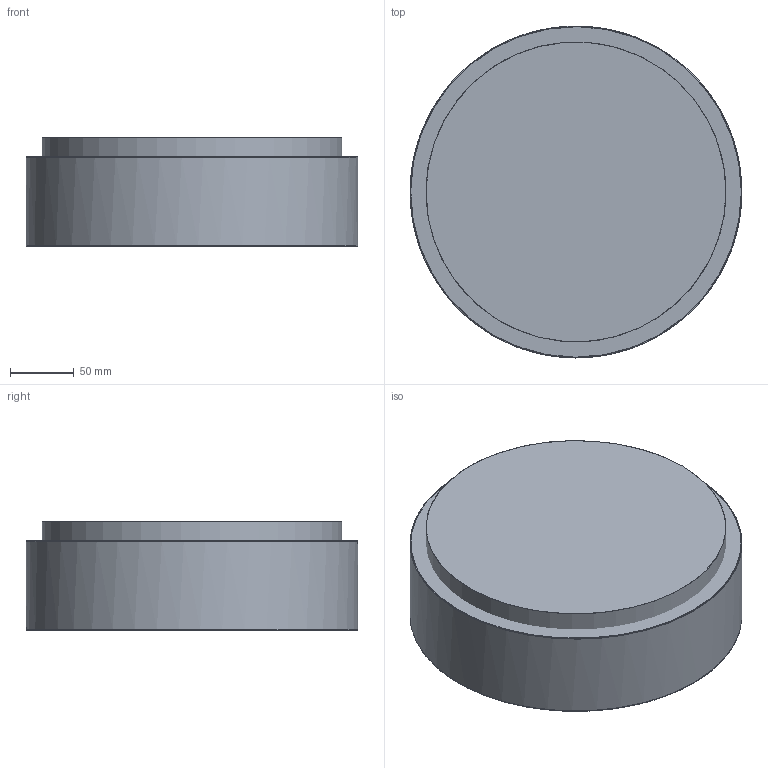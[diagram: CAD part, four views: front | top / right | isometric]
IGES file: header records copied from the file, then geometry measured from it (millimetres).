
Global section: file name: C:\Users\EQUIPO\Desktop\COLECCIONES ACB MODELADAS 3D OK\DINS\dins-395-26....igs; native system: Rhinoceros ( Oct  8 2013 ); preprocessor: Trout Lake IGES 012 Oct  8 2013; date: 190201.181505; units: millimetre
Bounding box: 260 x 260 x 85 mm (x, y, z)
Surface area: 355190.9 mm2 (no closed solid volume)
Topology: 0 solids, 0 shells, 12 faces, 98 edges, 95 vertices
Faces by surface type: bspline 12
